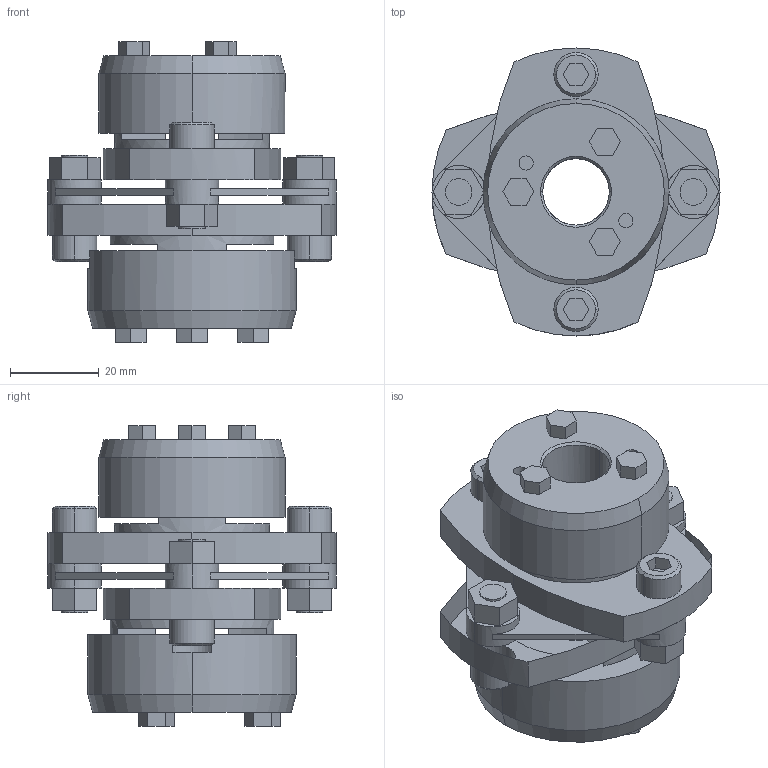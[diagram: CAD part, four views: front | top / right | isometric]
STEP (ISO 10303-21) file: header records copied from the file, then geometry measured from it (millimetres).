
FILE_DESCRIPTION((''),'2;1');
FILE_NAME('LCS-65T7-14×19.stp','2015-10-28T08:48:15',(''),(''),'AutoCAD STEP 2000i','AutoCAD 2000i',', , ');
FILE_SCHEMA(('CONFIG_CONTROL_DESIGN'));
Length unit declared in the file: millimetre
Products named in the file (9): LCS-65T7-14×19; 忣兜1; LC65T7-T019; LC65T7-T017; LC65T7-T015; LC65T7-T014-1; LC65T7-T014; LC65T7-T015-1; LCS65-ITA
Assembly tree (9 placements, depth 2):
  LCS-65T7-14×19
    忣兜1
    LC65T7-T019
    LC65T7-T017
    LC65T7-T015  x2
    LC65T7-T014-1
    LC65T7-T014
    LC65T7-T015-1
    LCS65-ITA
Bounding box: 65 x 65 x 67.9 mm (x, y, z)
Volume: 86379.1 mm3; surface area: 29130.1 mm2
Topology: 1 solids, 1 shells, 224 faces, 589 edges, 401 vertices
Faces by surface type: plane 134, cylinder 70, cone 20
Entity records: 7161 total; most frequent: DIRECTION 1262, CARTESIAN_POINT 1210, ORIENTED_EDGE 1150, EDGE_CURVE 575, AXIS2_PLACEMENT_3D 439, VECTOR 384, LINE 384, VERTEX_POINT 375
